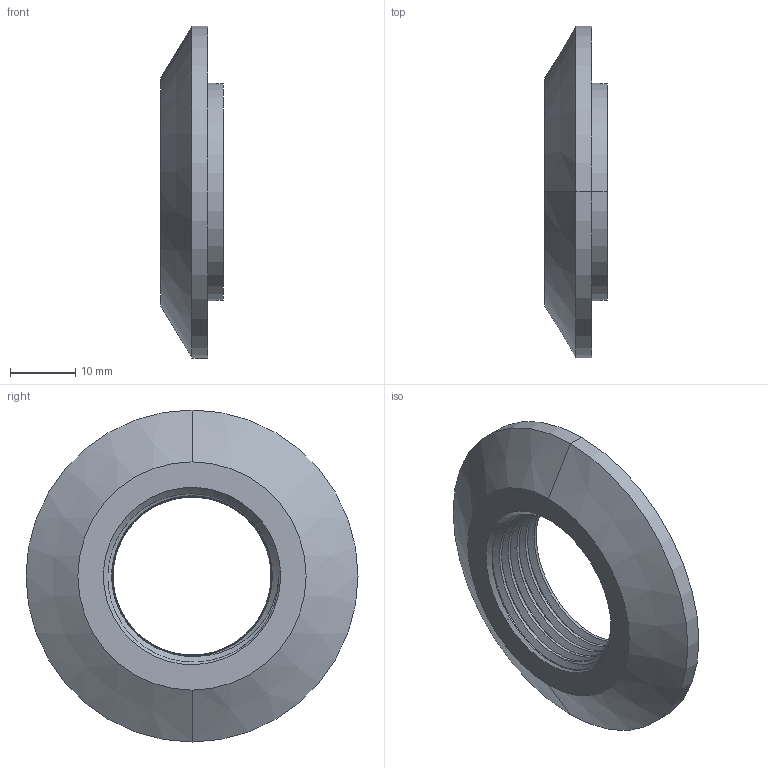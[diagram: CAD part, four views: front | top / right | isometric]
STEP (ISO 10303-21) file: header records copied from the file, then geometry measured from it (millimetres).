
FILE_DESCRIPTION((' '),'2;1');
FILE_NAME( '8694T45_Low-Pressure Aluminum Threaded Adapter MODIFIED.stp', '2025-07-26T15:16:01', (' '), ('--- Datakit www.datakit.com---'), ' Datakit CrossCadWare V2022.2 Mar 12 2022', 'Mastercam 2023', ' ');
FILE_SCHEMA(('AUTOMOTIVE_DESIGN { 1 0 10303 214 1 1 1 1 }'));
Length unit declared in the file: inch
Products named in the file (1): 8694T45_Low-Pressure Aluminum Threaded Adapter MODIFIED
Bounding box: 9.53 x 50.8 x 50.8 mm (x, y, z)
Volume: 9028.7 mm3; surface area: 5003.5 mm2
Topology: 1 solids, 1 shells, 25 faces, 93 edges, 71 vertices
Faces by surface type: cone 17, bspline 3, plane 3, cylinder 2
Entity records: 6498 total; most frequent: CARTESIAN_POINT 5727, ORIENTED_EDGE 186, DIRECTION 102, EDGE_CURVE 93, VERTEX_POINT 71, B_SPLINE_CURVE_WITH_KNOTS 56, AXIS2_PLACEMENT_3D 42, EDGE_LOOP 28
